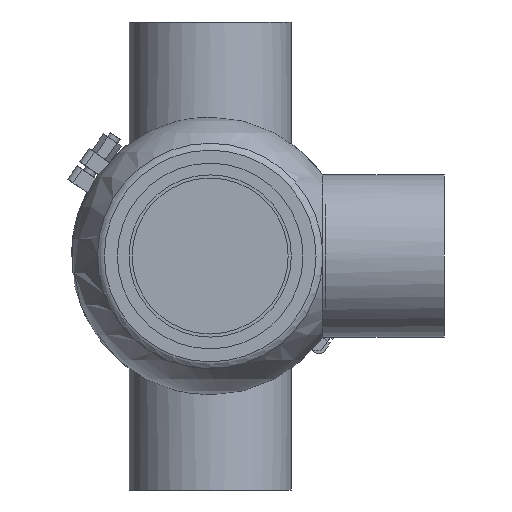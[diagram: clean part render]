
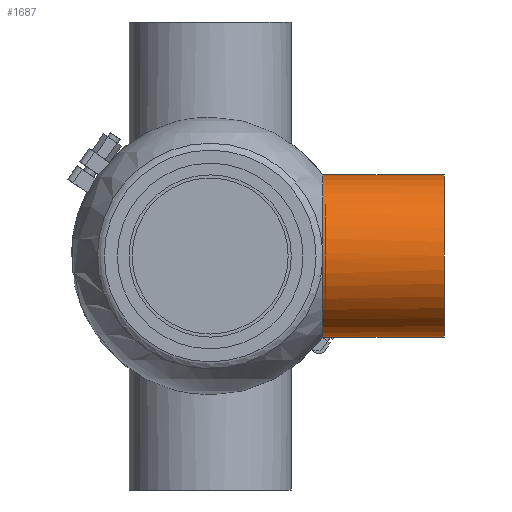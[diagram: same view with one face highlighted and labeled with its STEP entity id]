
A CAD part, front view. The second image highlights one B-rep face of the part: STEP entity #1687.
In plain terms, the highlighted cylindrical face has radius 52 mm (diameter 104 mm), a full revolution.
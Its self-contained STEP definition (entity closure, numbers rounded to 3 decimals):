
#75 = CARTESIAN_POINT ( 'NONE',  ( 72.229, -52.018, -0.773 ) ) ;
#782 = ORIENTED_EDGE ( 'NONE', *, *, #13251, .T. ) ;
#1020 = EDGE_CURVE ( 'NONE', #3348, #3348, #17040, .T. ) ;
#1521 = CARTESIAN_POINT ( 'NONE',  ( 72.229, -51.947, -2.34 ) ) ;
#1687 = ADVANCED_FACE ( 'NONE', ( #20729, #9167 ), #8447, .T. ) ;
#1735 = VERTEX_POINT ( 'NONE', #19303 ) ;
#2183 = AXIS2_PLACEMENT_3D ( 'NONE', #21021, #17768, #9598 ) ;
#2656 = CIRCLE ( 'NONE', #16565, 52. ) ;
#2859 = EDGE_LOOP ( 'NONE', ( #15058, #782, #17191, #15163 ) ) ;
#3286 = EDGE_CURVE ( 'NONE', #10056, #21408, #18858, .T. ) ;
#3348 = VERTEX_POINT ( 'NONE', #9757 ) ;
#3517 = EDGE_CURVE ( 'NONE', #21408, #1735, #17036, .T. ) ;
#3796 = CARTESIAN_POINT ( 'NONE',  ( 0., 0., 0. ) ) ;
#3888 = DIRECTION ( 'NONE',  ( 0., 0., 1. ) ) ;
#4303 = CARTESIAN_POINT ( 'NONE',  ( 72.229, -51.947, 2.34 ) ) ;
#4667 = DIRECTION ( 'NONE',  ( 0., 0., 1. ) ) ;
#6275 = CARTESIAN_POINT ( 'NONE',  ( 72.229, 51.971, -1.75 ) ) ;
#7041 = DIRECTION ( 'NONE',  ( -1., 0., 0. ) ) ;
#7452 = DIRECTION ( 'NONE',  ( -1., 0., 0. ) ) ;
#8242 = CARTESIAN_POINT ( 'NONE',  ( 72.229, 51.971, -1.75 ) ) ;
#8447 = CYLINDRICAL_SURFACE ( 'NONE', #9696, 52. ) ;
#9167 = FACE_OUTER_BOUND ( 'NONE', #16331, .T. ) ;
#9190 = B_SPLINE_CURVE_WITH_KNOTS ( 'NONE', 3,
 ( #16412, #19889, #75, #1521 ),
 .UNSPECIFIED., .F., .F.,
 ( 4, 4 ),
 ( 0.022, 0.026 ),
 .UNSPECIFIED. ) ;
#9598 = DIRECTION ( 'NONE',  ( 0., 0., 1. ) ) ;
#9696 = AXIS2_PLACEMENT_3D ( 'NONE', #3796, #7041, #16742 ) ;
#9757 = CARTESIAN_POINT ( 'NONE',  ( 150., 0., 52. ) ) ;
#10056 = VERTEX_POINT ( 'NONE', #15670 ) ;
#10326 = EDGE_CURVE ( 'NONE', #1735, #12353, #2656, .T. ) ;
#11614 = CARTESIAN_POINT ( 'NONE',  ( 72.229, 51.971, 1.75 ) ) ;
#11995 = ORIENTED_EDGE ( 'NONE', *, *, #1020, .T. ) ;
#12353 = VERTEX_POINT ( 'NONE', #4303 ) ;
#12941 = CARTESIAN_POINT ( 'NONE',  ( 72.229, 0., 0. ) ) ;
#13251 = EDGE_CURVE ( 'NONE', #12353, #10056, #9190, .T. ) ;
#15058 = ORIENTED_EDGE ( 'NONE', *, *, #10326, .T. ) ;
#15163 = ORIENTED_EDGE ( 'NONE', *, *, #3517, .T. ) ;
#15619 = CARTESIAN_POINT ( 'NONE',  ( 150., 0., 0. ) ) ;
#15670 = CARTESIAN_POINT ( 'NONE',  ( 72.229, -51.947, -2.34 ) ) ;
#16331 = EDGE_LOOP ( 'NONE', ( #11995 ) ) ;
#16412 = CARTESIAN_POINT ( 'NONE',  ( 72.229, -51.947, 2.34 ) ) ;
#16565 = AXIS2_PLACEMENT_3D ( 'NONE', #12941, #19594, #4667 ) ;
#16742 = DIRECTION ( 'NONE',  ( 0., 0., 1. ) ) ;
#17036 = B_SPLINE_CURVE_WITH_KNOTS ( 'NONE', 3,
 ( #8242, #21545, #19905, #11614 ),
 .UNSPECIFIED., .F., .F.,
 ( 4, 4 ),
 ( 0.017, 0.02 ),
 .UNSPECIFIED. ) ;
#17040 = CIRCLE ( 'NONE', #19805, 52. ) ;
#17191 = ORIENTED_EDGE ( 'NONE', *, *, #3286, .T. ) ;
#17768 = DIRECTION ( 'NONE',  ( 1., 0., 0. ) ) ;
#18858 = CIRCLE ( 'NONE', #2183, 52. ) ;
#19303 = CARTESIAN_POINT ( 'NONE',  ( 72.229, 51.971, 1.75 ) ) ;
#19594 = DIRECTION ( 'NONE',  ( 1., 0., 0. ) ) ;
#19805 = AXIS2_PLACEMENT_3D ( 'NONE', #15619, #7452, #3888 ) ;
#19889 = CARTESIAN_POINT ( 'NONE',  ( 72.229, -52.017, 0.786 ) ) ;
#19905 = CARTESIAN_POINT ( 'NONE',  ( 72.257, 52.01, 0.587 ) ) ;
#20729 = FACE_OUTER_BOUND ( 'NONE', #2859, .T. ) ;
#21021 = CARTESIAN_POINT ( 'NONE',  ( 72.229, 0., 0. ) ) ;
#21408 = VERTEX_POINT ( 'NONE', #6275 ) ;
#21545 = CARTESIAN_POINT ( 'NONE',  ( 72.257, 52.01, -0.579 ) ) ;
